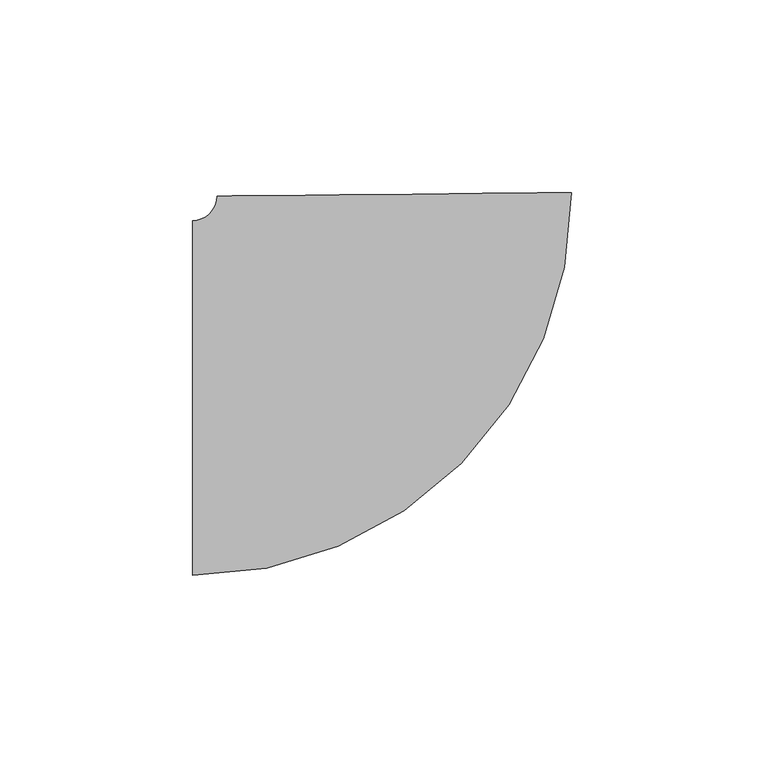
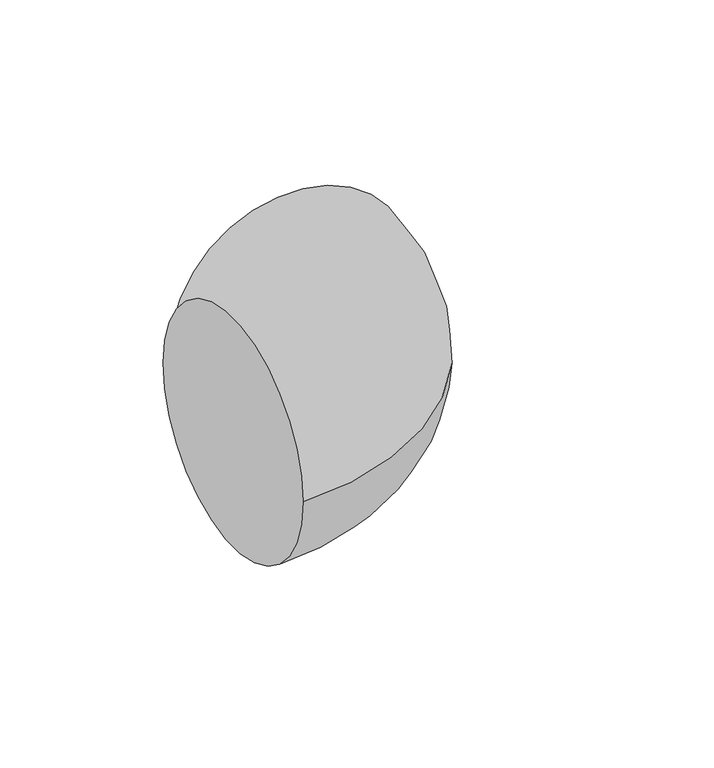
"""IFC4 building model written with IfcOpenShell, lengths in millimetres: pipe fitting geometry, M_Codo - Genérico : Estándar."""

import ifcopenshell
import ifcopenshell.guid

model = None  # the IFC model being written
_history = None  # IfcOwnerHistory: only IFC2X3 demands one
_inside = {}  # id of a spatial element -> (the spatial element, [elements in it])
_under = {}  # id of a project, library or spatial element -> (it, [spatial elements below it])
_declared = {}  # id of a project -> (the project, [libraries it declares])
_typed = {}  # id of a type object -> (the type object, [elements of that type])
_made_of = {}  # id of a material, layer set ... -> (it, [elements and type objects made of it])


def new_model(schema):
    """Start an empty IFC model of exactly this schema.

    Asked for "IFC4X3", IfcOpenShell would pick the latest addendum, in which some entities
    have other attributes; the version numbers below select the first issue.
    IFC2X3 requires an IfcOwnerHistory on every rooted entity: one is made here for all.
    """
    global model, _history
    if schema == "IFC4X3":
        model = ifcopenshell.file(schema_version=(4, 3, 0, 0))
    else:
        model = ifcopenshell.file(schema=schema)
    _inside.clear()
    _under.clear()
    _declared.clear()
    _typed.clear()
    _made_of.clear()
    _history = None
    if model.schema == "IFC2X3":
        org = make("IfcOrganization", Name="unknown")
        user = make(
            "IfcPersonAndOrganization",
            ThePerson=make("IfcPerson", FamilyName="unknown"),
            TheOrganization=org,
        )
        app = make(
            "IfcApplication",
            ApplicationDeveloper=org,
            Version="unknown",
            ApplicationFullName="unknown",
            ApplicationIdentifier="unknown",
        )
        _history = make(
            "IfcOwnerHistory",
            OwningUser=user,
            OwningApplication=app,
            ChangeAction="ADDED",
            CreationDate=0,
        )
    return model


def make(cls, **values):
    """One entity of the class cls with the attributes given. An attribute that is None is left unset."""
    return model.create_entity(
        cls, **{name: value for name, value in values.items() if value is not None}
    )


def rooted(cls, **values):
    """An entity with a GlobalId (a new one), such as an element, a storey or a relation."""
    return make(cls, GlobalId=ifcopenshell.guid.new(), OwnerHistory=_history, **values)


def si_unit(unit_type, name, prefix=None):
    """IfcSIUnit, for example si_unit("LENGTHUNIT", "METRE", prefix="MILLI")."""
    return make("IfcSIUnit", UnitType=unit_type, Prefix=prefix, Name=name)


def assignment(units):
    """IfcUnitAssignment: the units of a project."""
    return None if units is None else make("IfcUnitAssignment", Units=units)


def point(xyz):
    """IfcCartesianPoint."""
    return None if xyz is None else make("IfcCartesianPoint", Coordinates=xyz)


def direction(xyz):
    """IfcDirection."""
    return None if xyz is None else make("IfcDirection", DirectionRatios=xyz)


def frame(location, z_axis=None, x_axis=None):
    """IfcAxis2Placement3D, a coordinate frame: its origin and axes. An axis left out is left unset."""
    return make(
        "IfcAxis2Placement3D",
        Location=point(location),
        Axis=direction(z_axis),
        RefDirection=direction(x_axis),
    )


def origin():
    """The frame at (0, 0, 0) with its axes left unset."""
    return frame((0.0, 0.0, 0.0))


def place(relative_to, where):
    """IfcLocalPlacement: puts the frame where relative to a parent placement (None: the world)."""
    return make(
        "IfcLocalPlacement", PlacementRelTo=relative_to, RelativePlacement=where
    )


def context(
    kind, dimensions, precision=None, world=None, true_north=None, identifier=None
):
    """IfcGeometricRepresentationContext, for example the 3D "Model" context."""
    return make(
        "IfcGeometricRepresentationContext",
        ContextIdentifier=identifier,
        ContextType=kind,
        CoordinateSpaceDimension=dimensions,
        Precision=precision,
        WorldCoordinateSystem=world,
        TrueNorth=true_north,
    )


def project(units=None, contexts=None):
    """IfcProject with its units and contexts."""
    return rooted(
        "IfcProject",
        Name="project",
        RepresentationContexts=contexts,
        UnitsInContext=assignment(units),
    )


def spatial(cls, under=None, at=None, **own):
    """A site, building, storey or space (cls), placed at a placement, below another one or the project."""
    s = rooted(cls, ObjectPlacement=at, **own)
    if under is not None:
        _under.setdefault(under.id(), (under, []))[1].append(s)
    return s


def circle_curve(where, radius):
    """IfcCircle in the frame where."""
    return make("IfcCircle", Position=where, Radius=radius)


def ellipse_curve(where, semi_axis1, semi_axis2):
    """IfcEllipse in the frame where."""
    return make(
        "IfcEllipse", Position=where, SemiAxis1=semi_axis1, SemiAxis2=semi_axis2
    )


def trimmed(basis, trim1, trim2, sense, master):
    """IfcTrimmedCurve: the piece of a basis curve between two trims."""
    return make(
        "IfcTrimmedCurve",
        BasisCurve=basis,
        Trim1=trim1,
        Trim2=trim2,
        SenseAgreement=sense,
        MasterRepresentation=master,
    )


def shape(context_of_items, identifier, shape_type, items):
    """IfcShapeRepresentation: the items that make up one representation, for example the "Body"."""
    return make(
        "IfcShapeRepresentation",
        ContextOfItems=context_of_items,
        RepresentationIdentifier=identifier,
        RepresentationType=shape_type,
        Items=items,
    )


def source(mapping_origin, context_of_items, identifier, shape_type, items):
    """IfcRepresentationMap: a shape defined once, which mapped items show again and again."""
    return make(
        "IfcRepresentationMap",
        MappingOrigin=mapping_origin,
        MappedRepresentation=shape(context_of_items, identifier, shape_type, items),
    )


def transform(
    local_origin,
    x_axis=None,
    y_axis=None,
    z_axis=None,
    scale=None,
    scale2=None,
    scale3=None,
    uniform=True,
):
    """IfcCartesianTransformationOperator3D, or its non-uniform kind. x_axis, y_axis, z_axis: its Axis1, 2, 3."""
    if uniform:
        return make(
            "IfcCartesianTransformationOperator3D",
            Axis1=direction(x_axis),
            Axis2=direction(y_axis),
            LocalOrigin=point(local_origin),
            Scale=scale,
            Axis3=direction(z_axis),
        )
    return make(
        "IfcCartesianTransformationOperator3DnonUniform",
        Axis1=direction(x_axis),
        Axis2=direction(y_axis),
        LocalOrigin=point(local_origin),
        Scale=scale,
        Axis3=direction(z_axis),
        Scale2=scale2,
        Scale3=scale3,
    )


def mapped(mapping_source, mapping_target):
    """IfcMappedItem: shows the shape of a source again, moved by a transform."""
    return make(
        "IfcMappedItem", MappingSource=mapping_source, MappingTarget=mapping_target
    )


def made_of(thing, what):
    """Note that an element or type object is made of a material, layer set ...; save() writes the relation."""
    if what is not None:
        _made_of.setdefault(what.id(), (what, []))[1].append(thing)
    return thing


def element(
    cls,
    number,
    at=None,
    inside=None,
    cuts=None,
    type_object=None,
    material=None,
    context=None,
    identifier="Body",
    shape_type=None,
    held_by="IfcProductDefinitionShape",
    body=None,
    shapes=None,
    **own,
):
    """One element of the class cls, such as IfcWall. Its Tag is "e" and its number.

    at: its placement. inside: the storey or other place that contains it. cuts: it is an
    opening in that element (IfcRelVoidsElement). A single representation is given by context,
    identifier, shape_type and body (its items); several are given by shapes. held_by: the class
    of the entity that holds the representations. save() writes the other relations.
    """
    e = rooted(cls, Tag="e%d" % number, ObjectPlacement=at, **own)
    if body is not None:
        shapes = [shape(context, identifier, shape_type, body)]
    if shapes is not None:
        e.Representation = make(held_by, Representations=shapes)
    if inside is not None:
        _inside.setdefault(inside.id(), (inside, []))[1].append(e)
    if cuts is not None:
        rooted(
            "IfcRelVoidsElement", RelatingBuildingElement=cuts, RelatedOpeningElement=e
        )
    if type_object is not None:
        _typed.setdefault(type_object.id(), (type_object, []))[1].append(e)
    return made_of(e, material)


def aggregate(whole, parts):
    """IfcRelAggregates: a whole, such as a stair, and the parts it consists of."""
    return rooted("IfcRelAggregates", RelatingObject=whole, RelatedObjects=parts)


def save(model, path):
    """Write the relations noted so far, then the file.

    IfcRelAggregates (storeys below a building ...), IfcRelContainedInSpatialStructure (elements
    in a storey), IfcRelDefinesByType, IfcRelAssociatesMaterial and IfcRelDeclares: one each for
    every whole, place, type object, material and project.
    """
    for whole, parts in _under.values():
        aggregate(whole, parts)
    for where, things in _inside.values():
        rooted(
            "IfcRelContainedInSpatialStructure",
            RelatedElements=things,
            RelatingStructure=where,
        )
    for kind, things in _typed.values():
        rooted("IfcRelDefinesByType", RelatedObjects=things, RelatingType=kind)
    for what, things in _made_of.values():
        rooted("IfcRelAssociatesMaterial", RelatedObjects=things, RelatingMaterial=what)
    for by, libraries in _declared.values():
        rooted("IfcRelDeclares", RelatingContext=by, RelatedDefinitions=libraries)
    model.write(path)


def plane_surface(at):
    """IfcPlane: the flat surface through the origin of the frame at, square to its z axis."""
    return make("IfcPlane", Position=at)


def revolved_surface(curve, axis_point, axis_direction):
    """IfcSurfaceOfRevolution: the curve turned about the line through axis_point along axis_direction."""
    return make(
        "IfcSurfaceOfRevolution",
        SweptCurve=make("IfcArbitraryOpenProfileDef", ProfileType="CURVE", Curve=curve),
        AxisPosition=make("IfcAxis1Placement", Location=point(axis_point), Axis=direction(axis_direction)),
    )


def advanced_brep(points, edges, surfaces, faces):
    """IfcAdvancedBrep: a solid bounded by faces that lie on surfaces and meet in shared edges.

    An edge is (start, end): straight between two places in points (the first is 0);
    or (start, end, curve); or (start, end, curve, False) where it runs against its curve.
    A face is (place in surfaces, loops), or (place, loops, False) where it looks against
    its surface's normal. A loop lists edges by number (the first is 1), with a minus sign
    where the edge is run from its end to its start. The first loop is the outer one.
    """
    corners = [point(p) for p in points]
    vertices = [make("IfcVertexPoint", VertexGeometry=c) for c in corners]
    made = []
    for start, end, *more in edges:
        made.append(
            make(
                "IfcEdgeCurve",
                EdgeStart=vertices[start],
                EdgeEnd=vertices[end],
                EdgeGeometry=more[0] if more else make("IfcPolyline", Points=[corners[start], corners[end]]),
                SameSense=more[1] if len(more) > 1 else True,
            )
        )
    hull = []
    for where, loops, *sense in faces:
        bounds = []
        for j, loop in enumerate(loops):
            ring = [make("IfcOrientedEdge", EdgeElement=made[abs(k) - 1], Orientation=k > 0) for k in loop]
            bounds.append(
                make(
                    "IfcFaceOuterBound" if j == 0 else "IfcFaceBound",
                    Bound=make("IfcEdgeLoop", EdgeList=ring),
                    Orientation=True,
                )
            )
        hull.append(make("IfcAdvancedFace", Bounds=bounds, FaceSurface=surfaces[where], SameSense=sense[0] if sense else True))
    return make("IfcAdvancedBrep", Outer=make("IfcClosedShell", CfsFaces=hull))


def pipe_fitting_4378a78c(model_context):
    return source(origin(), model_context, "Body", "AdvancedBrep", [
        advanced_brep(
        [(-52.9139943, -46.0375, 0.0), (-52.9139943, 46.0375, 0.0), (45.5060848, 53.3717008, 0.0), (-46.5643118, 52.4509968, 0.0)],
        [
            (0, 1, circle_curve(frame((-52.9139943, 0.0, 0.0), z_axis=(-1.0, 0.0, 0.0), x_axis=(0.0, 1.0, 0.0)), 46.0375)),
            (1, 0, circle_curve(frame((-52.9139943, 0.0, 0.0), z_axis=(-1.0, 0.0, 0.0), x_axis=(0.0, 1.0, 0.0)), 46.0375)),
            (2, 3, circle_curve(frame((-0.5291135, 52.9113488, 0.0), z_axis=(-0.009999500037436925, 0.9999500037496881, 0.0), x_axis=(-0.9999500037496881, -0.009999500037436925, 0.0)), 46.0375)),
            (3, 2, circle_curve(frame((-0.5291135, 52.9113488, 0.0), z_axis=(-0.009999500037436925, 0.9999500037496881, 0.0), x_axis=(-0.9999500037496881, -0.009999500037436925, 0.0)), 46.0375)),
            (3, 1, circle_curve(frame((-52.9139943, 52.3875, 0.0), z_axis=(0.0, 0.0, -1.0), x_axis=(0.0, -1.0, 0.0)), 6.35)),
            (0, 2, circle_curve(frame((-52.9139943, 52.3875, 0.0), z_axis=(0.0, 0.0, 1.0), x_axis=(0.0, -1.0, 0.0)), 98.425)),
        ],
        [
            plane_surface(frame((-52.9139943, 0.0, 0.0), z_axis=(-1.0, 0.0, 0.0), x_axis=(0.0, 0.0, 1.0))),
            plane_surface(frame((-0.5291135, 52.9113488, 0.0), z_axis=(-0.009999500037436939, 0.9999500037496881, 0.0), x_axis=(0.0, 0.0, 1.0))),
            revolved_surface(trimmed(ellipse_curve(frame((-52.9139943, 0.0, 0.0), z_axis=(-1.0, 0.0, 0.0), x_axis=(0.0, 1.0, 0.0)), 46.0375, 46.0375), [point((-52.9139943, -46.0375, 0.0))], [point((-52.9139943, 46.0375, 0.0))], True, "CARTESIAN"), (-52.9139943, 52.3875, 0.0), (0.0, 0.0, 1.0)),
            revolved_surface(trimmed(ellipse_curve(frame((-52.9139943, 0.0, 0.0), z_axis=(-1.0, 0.0, 0.0), x_axis=(0.0, 1.0, 0.0)), 46.0375, 46.0375), [point((-52.9139943, 46.0375, 0.0))], [point((-52.9139943, -46.0375, 0.0))], True, "CARTESIAN"), (-52.9139943, 52.3875, 0.0), (0.0, 0.0, 1.0)),
        ],
        [
            (0, [[1, 2]]),
            (1, [[3, 4]]),
            (2, [[5, -1, 6, -4]]),
            (3, [[-6, -2, -5, -3]]),
        ],
    ),
    ])


if __name__ == "__main__":
    model = new_model("IFC4")
    model_context = context("Model", 3, world=origin())
    ifc_project = project(units=[si_unit("LENGTHUNIT", "METRE", prefix="MILLI")], contexts=[model_context])
    site = spatial("IfcSite", under=ifc_project)
    building = spatial("IfcBuilding", under=site)
    placement = place(None, origin())
    pipe_fitting_shape = pipe_fitting_4378a78c(model_context)
    element("IfcPipeFitting", 1, ObjectType="M_Codo - Genérico : Estándar", at=placement, inside=building, context=model_context, shape_type="MappedRepresentation", body=[
        mapped(pipe_fitting_shape, transform((0.0, 0.0, 0.0), x_axis=(1.0, 0.0, 0.0), y_axis=(0.0, 1.0, 0.0), z_axis=(0.0, 0.0, 1.0))),
    ])
    save(model, "model.ifc")
